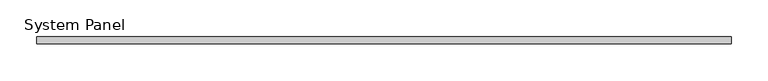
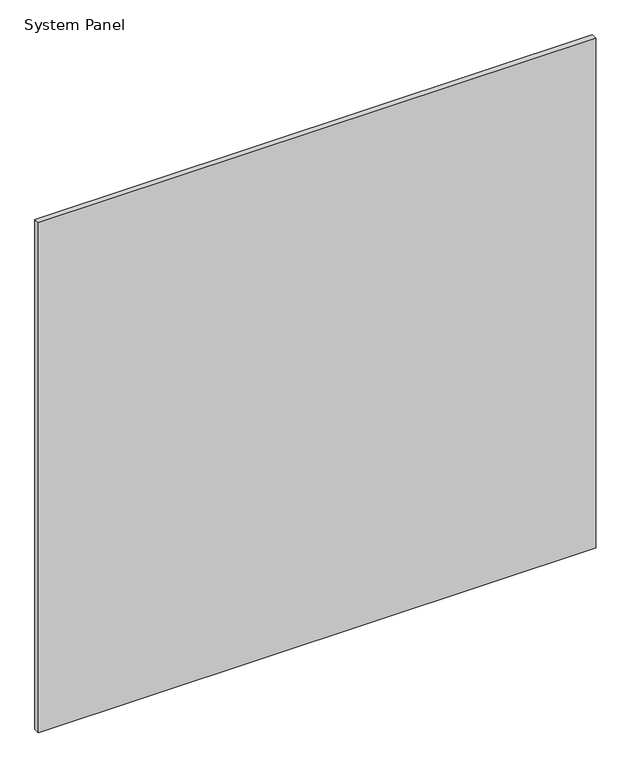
"""IFC4 building model written with IfcOpenShell, lengths in millimetres: plate geometry, System Panel : MALLA ACMA."""

from ifc_helpers import new_model, si_unit, origin, origin_with_axes, place, context, project, spatial, polyline, outline, extrude, source, transform, mapped, element, save


def system_panel_b7fae75c(model_context):
    return source(origin(), model_context, "Body", "SweptSolid", [
        extrude(outline(polyline([(475.3819882, -5.0), (-475.3819882, -5.0), (-475.3819882, 5.0), (475.3819882, 5.0), (475.3819882, -5.0)])), origin_with_axes(), (0.0, 0.0, 1.0), 920.0),
    ])


if __name__ == "__main__":
    model = new_model("IFC4")
    model_context = context("Model", 3, world=origin())
    ifc_project = project(units=[si_unit("LENGTHUNIT", "METRE", prefix="MILLI")], contexts=[model_context])
    site = spatial("IfcSite", under=ifc_project)
    building = spatial("IfcBuilding", under=site)
    placement = place(None, origin())
    system_panel_shape = system_panel_b7fae75c(model_context)
    element("IfcPlate", 1, ObjectType="System Panel : MALLA ACMA", at=placement, inside=building, context=model_context, shape_type="MappedRepresentation", body=[
        mapped(system_panel_shape, transform((0.0, 0.0, 0.0), x_axis=(1.0, 0.0, 0.0), y_axis=(0.0, 1.0, 0.0), z_axis=(0.0, 0.0, 1.0))),
    ])
    save(model, "model.ifc")
